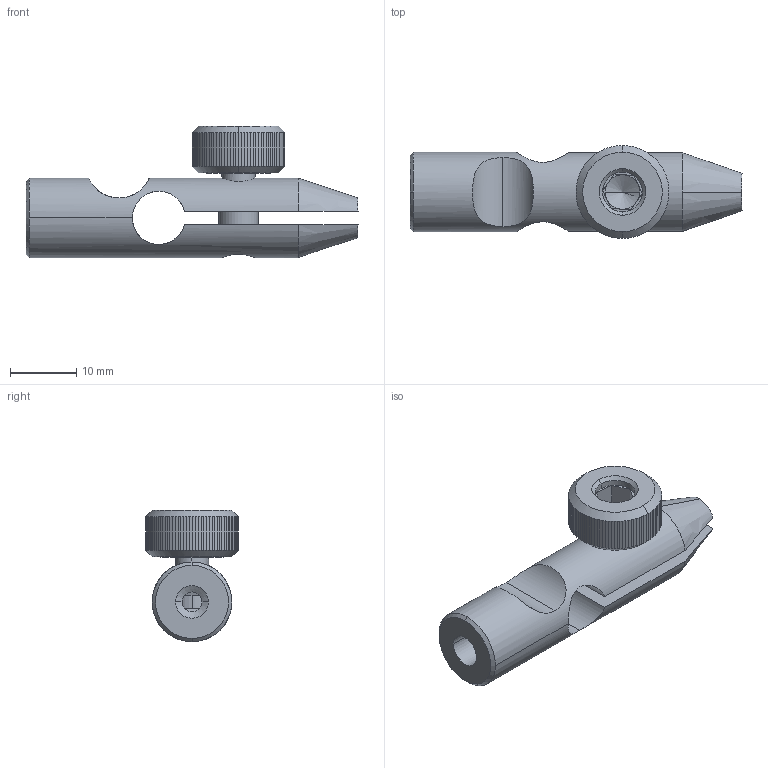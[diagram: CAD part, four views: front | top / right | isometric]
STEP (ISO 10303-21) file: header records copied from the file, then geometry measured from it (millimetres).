
FILE_DESCRIPTION (( 'STEP AP203' ), '1' );
FILE_NAME ('4PC69.STEP', '2010-07-10T08:13:17', ( 'Darius' ), ( '' ), 'SwSTEP 2.0', 'SolidWorks 2003240', '' );
FILE_SCHEMA (( 'CONFIG_CONTROL_DESIGN' ));
Length unit declared in the file: millimetre
Products named in the file (1): 4PC69
Bounding box: 50 x 14 x 19.8 mm (x, y, z)
Volume: 4728.4 mm3; surface area: 3319.8 mm2
Topology: 1 solids, 1 shells, 165 faces, 448 edges, 289 vertices
Faces by surface type: plane 126, cylinder 23, cone 15, bspline 1
Entity records: 5768 total; most frequent: CARTESIAN_POINT 1940, ORIENTED_EDGE 892, DIRECTION 608, EDGE_CURVE 446, VERTEX_POINT 289, B_SPLINE_CURVE_WITH_KNOTS 224, AXIS2_PLACEMENT_3D 221, EDGE_LOOP 175
